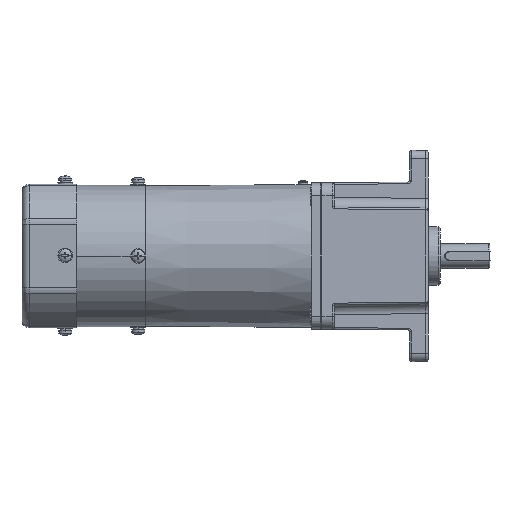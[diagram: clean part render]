
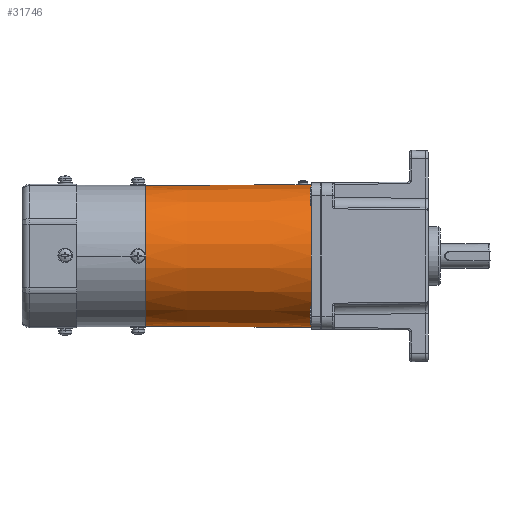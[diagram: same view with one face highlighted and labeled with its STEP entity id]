
A CAD part, front view. The second image highlights one B-rep face of the part: STEP entity #31746.
In plain terms, the highlighted conical face has half-angle 0.503 degrees and reference radius 43.236 mm.
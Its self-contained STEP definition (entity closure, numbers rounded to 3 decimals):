
#13 = CARTESIAN_POINT ( 'NONE',  ( 2560.293, -775.157, 43.236 ) ) ;
#1318 = VERTEX_POINT ( 'NONE', #6805 ) ;
#1683 = EDGE_LOOP ( 'NONE', ( #49354, #45267, #17720, #42088, #43644 ) ) ;
#2612 = VECTOR ( 'NONE', #4753, 1000. ) ;
#3070 = EDGE_CURVE ( 'NONE', #1318, #42952, #7561, .T. ) ;
#4169 = CIRCLE ( 'NONE', #32281, 44. ) ;
#4753 = DIRECTION ( 'NONE',  ( 1., 0., -0.009 ) ) ;
#4857 = CARTESIAN_POINT ( 'NONE',  ( 2647.292, -775.157, 44. ) ) ;
#6500 = VECTOR ( 'NONE', #45929, 1000. ) ;
#6541 = AXIS2_PLACEMENT_3D ( 'NONE', #45540, #39001, #31704 ) ;
#6805 = CARTESIAN_POINT ( 'NONE',  ( 2545.293, -775.157, 43.105 ) ) ;
#7561 = LINE ( 'NONE', #13, #17314 ) ;
#9378 = CARTESIAN_POINT ( 'NONE',  ( 2545.293, -775.157, 0. ) ) ;
#10129 = DIRECTION ( 'NONE',  ( -1., 0., 0. ) ) ;
#17314 = VECTOR ( 'NONE', #22907, 1000. ) ;
#17489 = CIRCLE ( 'NONE', #43129, 43.105 ) ;
#17720 = ORIENTED_EDGE ( 'NONE', *, *, #33139, .T. ) ;
#20353 = LINE ( 'NONE', #39430, #2612 ) ;
#21588 = VERTEX_POINT ( 'NONE', #46994 ) ;
#22907 = DIRECTION ( 'NONE',  ( 1., 0., 0.009 ) ) ;
#22934 = EDGE_CURVE ( 'NONE', #21588, #1318, #17489, .T. ) ;
#25512 = EDGE_CURVE ( 'NONE', #39412, #38292, #4169, .T. ) ;
#26273 = EDGE_CURVE ( 'NONE', #38292, #42952, #34400, .T. ) ;
#27666 = CARTESIAN_POINT ( 'NONE',  ( 2647.292, -775.157, 0. ) ) ;
#28985 = CONICAL_SURFACE ( 'NONE', #6541, 43.236, 0.009 ) ;
#30210 = FACE_OUTER_BOUND ( 'NONE', #1683, .T. ) ;
#30590 = CARTESIAN_POINT ( 'NONE',  ( -2365.797, -775.157, 0. ) ) ;
#31704 = DIRECTION ( 'NONE',  ( 0., 0., -1. ) ) ;
#31746 = ADVANCED_FACE ( 'NONE', ( #30210 ), #28985, .T. ) ;
#32281 = AXIS2_PLACEMENT_3D ( 'NONE', #27666, #35737, #35015 ) ;
#32521 = DIRECTION ( 'NONE',  ( 0., 0., 1. ) ) ;
#33139 = EDGE_CURVE ( 'NONE', #21588, #39412, #20353, .T. ) ;
#34400 = LINE ( 'NONE', #30590, #6500 ) ;
#35015 = DIRECTION ( 'NONE',  ( 0., 0., -1. ) ) ;
#35737 = DIRECTION ( 'NONE',  ( -1., 0., 0. ) ) ;
#38292 = VERTEX_POINT ( 'NONE', #4857 ) ;
#39001 = DIRECTION ( 'NONE',  ( 1., 0., 0. ) ) ;
#39207 = CARTESIAN_POINT ( 'NONE',  ( 2637.292, -775.157, 43.912 ) ) ;
#39412 = VERTEX_POINT ( 'NONE', #42072 ) ;
#39430 = CARTESIAN_POINT ( 'NONE',  ( 2560.293, -775.157, -43.236 ) ) ;
#42072 = CARTESIAN_POINT ( 'NONE',  ( 2647.292, -775.157, -44. ) ) ;
#42088 = ORIENTED_EDGE ( 'NONE', *, *, #25512, .T. ) ;
#42952 = VERTEX_POINT ( 'NONE', #39207 ) ;
#43129 = AXIS2_PLACEMENT_3D ( 'NONE', #9378, #10129, #32521 ) ;
#43644 = ORIENTED_EDGE ( 'NONE', *, *, #26273, .T. ) ;
#45267 = ORIENTED_EDGE ( 'NONE', *, *, #22934, .F. ) ;
#45540 = CARTESIAN_POINT ( 'NONE',  ( 2560.293, -775.157, 0. ) ) ;
#45929 = DIRECTION ( 'NONE',  ( -1., 0., -0.009 ) ) ;
#46994 = CARTESIAN_POINT ( 'NONE',  ( 2545.293, -775.157, -43.105 ) ) ;
#49354 = ORIENTED_EDGE ( 'NONE', *, *, #3070, .F. ) ;
